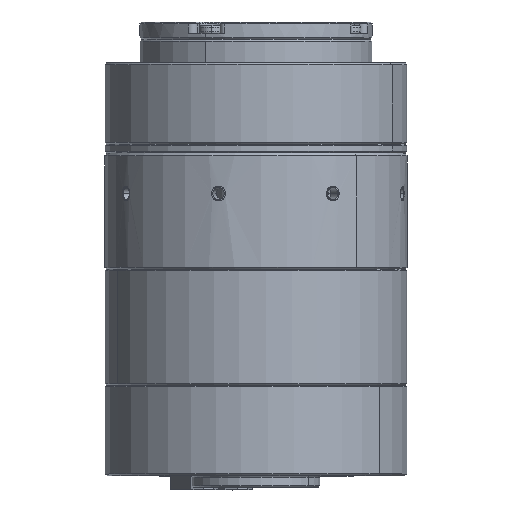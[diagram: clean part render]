
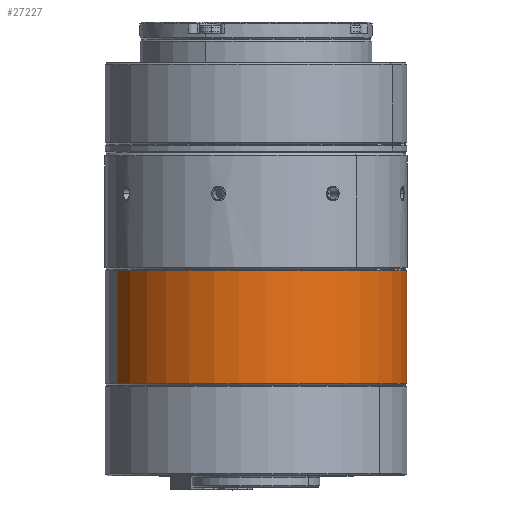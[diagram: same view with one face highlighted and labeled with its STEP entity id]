
A CAD part, top view. The second image highlights one B-rep face of the part: STEP entity #27227.
In plain terms, the highlighted cylindrical face has radius 26 mm (diameter 52 mm), a partial arc.
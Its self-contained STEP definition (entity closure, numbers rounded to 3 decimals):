
#223 = CARTESIAN_POINT ( 'NONE',  ( 23.811, -19.7, -10.442 ) ) ;
#2628 = ORIENTED_EDGE ( 'NONE', *, *, #20818, .T. ) ;
#4409 = LINE ( 'NONE', #16893, #26155 ) ;
#5492 = DIRECTION ( 'NONE',  ( 0., -1., 0. ) ) ;
#7253 = AXIS2_PLACEMENT_3D ( 'NONE', #32402, #5492, #7892 ) ;
#7892 = DIRECTION ( 'NONE',  ( -0.916, 0., 0.402 ) ) ;
#9767 = DIRECTION ( 'NONE',  ( 0.916, 0., -0.402 ) ) ;
#10596 = AXIS2_PLACEMENT_3D ( 'NONE', #23613, #32712, #32135 ) ;
#10758 = ORIENTED_EDGE ( 'NONE', *, *, #24216, .T. ) ;
#11547 = ORIENTED_EDGE ( 'NONE', *, *, #24411, .F. ) ;
#12600 = AXIS2_PLACEMENT_3D ( 'NONE', #18887, #28346, #9767 ) ;
#12872 = CARTESIAN_POINT ( 'NONE',  ( -23.811, -19.7, 10.442 ) ) ;
#15946 = VERTEX_POINT ( 'NONE', #37198 ) ;
#16893 = CARTESIAN_POINT ( 'NONE',  ( -23.811, -23., 10.442 ) ) ;
#17135 = VERTEX_POINT ( 'NONE', #12872 ) ;
#18887 = CARTESIAN_POINT ( 'NONE',  ( 0., -23., 0. ) ) ;
#19637 = LINE ( 'NONE', #28736, #29541 ) ;
#19853 = DIRECTION ( 'NONE',  ( 0., -1., 0. ) ) ;
#20818 = EDGE_CURVE ( 'NONE', #26526, #17135, #28095, .T. ) ;
#21728 = EDGE_LOOP ( 'NONE', ( #2628, #32278, #10758, #11547 ) ) ;
#22283 = CARTESIAN_POINT ( 'NONE',  ( 23.811, -39.2, -10.442 ) ) ;
#23613 = CARTESIAN_POINT ( 'NONE',  ( 0., -39.2, 0. ) ) ;
#24216 = EDGE_CURVE ( 'NONE', #15946, #37397, #26379, .T. ) ;
#24411 = EDGE_CURVE ( 'NONE', #26526, #37397, #19637, .T. ) ;
#24802 = CYLINDRICAL_SURFACE ( 'NONE', #12600, 26. ) ;
#26155 = VECTOR ( 'NONE', #19853, 1000. ) ;
#26379 = CIRCLE ( 'NONE', #10596, 26. ) ;
#26526 = VERTEX_POINT ( 'NONE', #223 ) ;
#27227 = ADVANCED_FACE ( 'NONE', ( #30740 ), #24802, .T. ) ;
#28095 = CIRCLE ( 'NONE', #7253, 26. ) ;
#28346 = DIRECTION ( 'NONE',  ( 0., -1., 0. ) ) ;
#28736 = CARTESIAN_POINT ( 'NONE',  ( 23.811, -23., -10.442 ) ) ;
#29541 = VECTOR ( 'NONE', #31119, 1000. ) ;
#30740 = FACE_OUTER_BOUND ( 'NONE', #21728, .T. ) ;
#31119 = DIRECTION ( 'NONE',  ( 0., -1., 0. ) ) ;
#32135 = DIRECTION ( 'NONE',  ( 0.916, 0., -0.402 ) ) ;
#32278 = ORIENTED_EDGE ( 'NONE', *, *, #33237, .T. ) ;
#32402 = CARTESIAN_POINT ( 'NONE',  ( 0., -19.7, 0. ) ) ;
#32712 = DIRECTION ( 'NONE',  ( 0., 1., 0. ) ) ;
#33237 = EDGE_CURVE ( 'NONE', #17135, #15946, #4409, .T. ) ;
#37198 = CARTESIAN_POINT ( 'NONE',  ( -23.811, -39.2, 10.442 ) ) ;
#37397 = VERTEX_POINT ( 'NONE', #22283 ) ;
